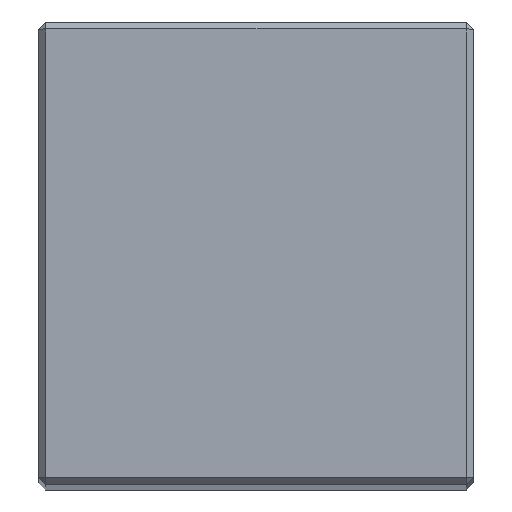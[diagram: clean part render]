
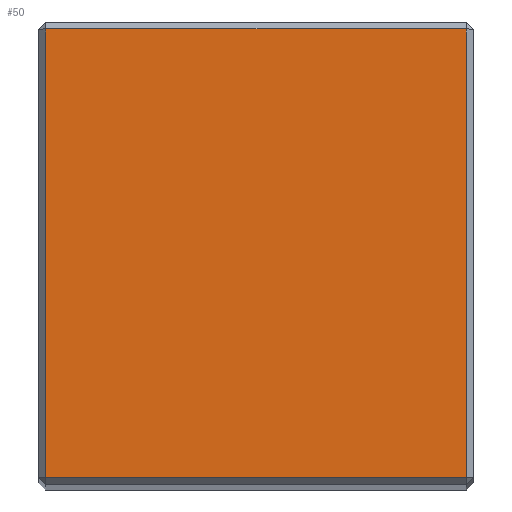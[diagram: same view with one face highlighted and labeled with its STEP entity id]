
A CAD part, top view. The second image highlights one B-rep face of the part: STEP entity #50.
In plain terms, the highlighted planar face has unit normal (0, 0, 1).
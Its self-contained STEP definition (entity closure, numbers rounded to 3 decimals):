
#28 = CARTESIAN_POINT ( 'NONE',  ( 31., 66., 223. ) ) ;
#47 = EDGE_CURVE ( 'NONE', #626, #55, #140, .T. ) ;
#50 = ADVANCED_FACE ( 'NONE', ( #126 ), #328, .F. ) ;
#53 = DIRECTION ( 'NONE',  ( 1., 0., 0. ) ) ;
#55 = VERTEX_POINT ( 'NONE', #108 ) ;
#74 = CARTESIAN_POINT ( 'NONE',  ( 30., 65., 223. ) ) ;
#76 = ORIENTED_EDGE ( 'NONE', *, *, #47, .T. ) ;
#94 = CARTESIAN_POINT ( 'NONE',  ( 31., 1., 223. ) ) ;
#108 = CARTESIAN_POINT ( 'NONE',  ( -30., 1., 223. ) ) ;
#116 = VECTOR ( 'NONE', #326, 1000. ) ;
#126 = FACE_OUTER_BOUND ( 'NONE', #531, .T. ) ;
#140 = LINE ( 'NONE', #180, #116 ) ;
#180 = CARTESIAN_POINT ( 'NONE',  ( -30., 66., 223. ) ) ;
#210 = AXIS2_PLACEMENT_3D ( 'NONE', #28, #591, #469 ) ;
#229 = LINE ( 'NONE', #470, #554 ) ;
#237 = VECTOR ( 'NONE', #53, 1000. ) ;
#240 = EDGE_CURVE ( 'NONE', #55, #609, #442, .T. ) ;
#243 = EDGE_CURVE ( 'NONE', #460, #626, #229, .T. ) ;
#278 = LINE ( 'NONE', #595, #359 ) ;
#326 = DIRECTION ( 'NONE',  ( 0., -1., 0. ) ) ;
#328 = PLANE ( 'NONE',  #210 ) ;
#332 = EDGE_CURVE ( 'NONE', #609, #460, #278, .T. ) ;
#359 = VECTOR ( 'NONE', #550, 1000. ) ;
#382 = CARTESIAN_POINT ( 'NONE',  ( -30., 65., 223. ) ) ;
#442 = LINE ( 'NONE', #94, #237 ) ;
#460 = VERTEX_POINT ( 'NONE', #74 ) ;
#467 = DIRECTION ( 'NONE',  ( -1., 0., 0. ) ) ;
#468 = ORIENTED_EDGE ( 'NONE', *, *, #240, .T. ) ;
#469 = DIRECTION ( 'NONE',  ( -1., 0., 0. ) ) ;
#470 = CARTESIAN_POINT ( 'NONE',  ( -31., 65., 223. ) ) ;
#474 = CARTESIAN_POINT ( 'NONE',  ( 30., 1., 223. ) ) ;
#531 = EDGE_LOOP ( 'NONE', ( #633, #76, #468, #571 ) ) ;
#550 = DIRECTION ( 'NONE',  ( 0., 1., 0. ) ) ;
#554 = VECTOR ( 'NONE', #467, 1000. ) ;
#571 = ORIENTED_EDGE ( 'NONE', *, *, #332, .T. ) ;
#591 = DIRECTION ( 'NONE',  ( 0., 0., -1. ) ) ;
#595 = CARTESIAN_POINT ( 'NONE',  ( 30., 66., 223. ) ) ;
#609 = VERTEX_POINT ( 'NONE', #474 ) ;
#626 = VERTEX_POINT ( 'NONE', #382 ) ;
#633 = ORIENTED_EDGE ( 'NONE', *, *, #243, .T. ) ;
